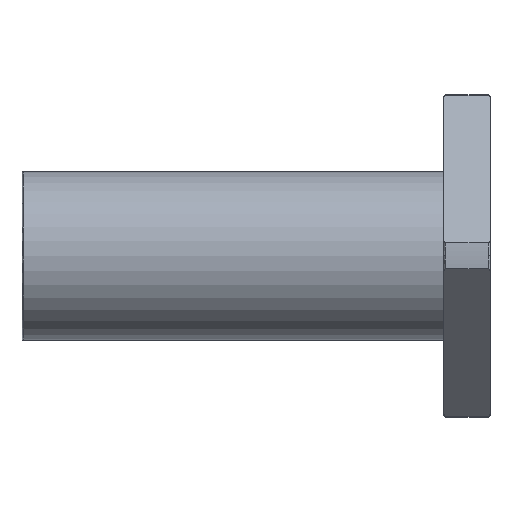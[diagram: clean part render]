
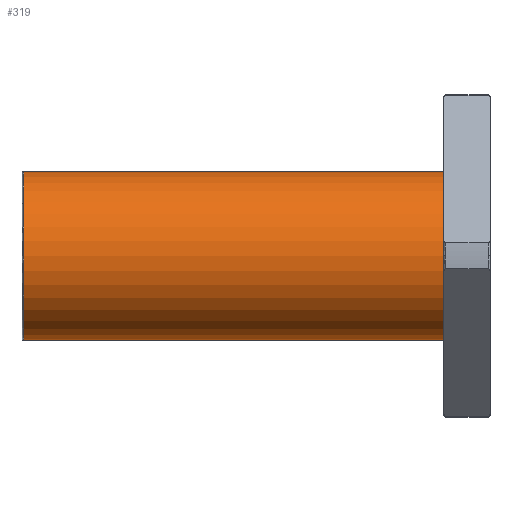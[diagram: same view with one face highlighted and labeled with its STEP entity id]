
A CAD part, top view. The second image highlights one B-rep face of the part: STEP entity #319.
In plain terms, the highlighted cylindrical face has radius 11 mm (diameter 22 mm), a partial arc.
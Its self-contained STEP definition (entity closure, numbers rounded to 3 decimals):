
#319 = ADVANCED_FACE('',(#320),#334,.T.);
#320 = FACE_BOUND('',#321,.T.);
#321 = EDGE_LOOP('',(#322,#357,#386,#415,#438));
#322 = ORIENTED_EDGE('',*,*,#323,.F.);
#323 = EDGE_CURVE('',#324,#326,#328,.T.);
#324 = VERTEX_POINT('',#325);
#325 = CARTESIAN_POINT('',(-60.75,11.,0.));
#326 = VERTEX_POINT('',#327);
#327 = CARTESIAN_POINT('',(-6.,11.,0.));
#328 = SURFACE_CURVE('',#329,(#333,#345),.PCURVE_S1.);
#329 = LINE('',#330,#331);
#330 = CARTESIAN_POINT('',(-33.375,11.,0.));
#331 = VECTOR('',#332,1.);
#332 = DIRECTION('',(1.,0.,0.));
#333 = PCURVE('',#334,#339);
#334 = CYLINDRICAL_SURFACE('',#335,11.);
#335 = AXIS2_PLACEMENT_3D('',#336,#337,#338);
#336 = CARTESIAN_POINT('',(-33.375,0.,0.));
#337 = DIRECTION('',(1.,0.,0.));
#338 = DIRECTION('',(-0.,1.,0.));
#339 = DEFINITIONAL_REPRESENTATION('',(#340),#344);
#340 = LINE('',#341,#342);
#341 = CARTESIAN_POINT('',(0.,0.));
#342 = VECTOR('',#343,1.);
#343 = DIRECTION('',(0.,1.));
#344 = ( GEOMETRIC_REPRESENTATION_CONTEXT(2) 
PARAMETRIC_REPRESENTATION_CONTEXT() REPRESENTATION_CONTEXT('2D SPACE',''
  ) );
#345 = PCURVE('',#346,#351);
#346 = CYLINDRICAL_SURFACE('',#347,11.);
#347 = AXIS2_PLACEMENT_3D('',#348,#349,#350);
#348 = CARTESIAN_POINT('',(-33.375,0.,0.));
#349 = DIRECTION('',(1.,0.,0.));
#350 = DIRECTION('',(-0.,1.,0.));
#351 = DEFINITIONAL_REPRESENTATION('',(#352),#356);
#352 = LINE('',#353,#354);
#353 = CARTESIAN_POINT('',(6.283,0.));
#354 = VECTOR('',#355,1.);
#355 = DIRECTION('',(0.,1.));
#356 = ( GEOMETRIC_REPRESENTATION_CONTEXT(2) 
PARAMETRIC_REPRESENTATION_CONTEXT() REPRESENTATION_CONTEXT('2D SPACE',''
  ) );
#357 = ORIENTED_EDGE('',*,*,#358,.T.);
#358 = EDGE_CURVE('',#324,#359,#361,.T.);
#359 = VERTEX_POINT('',#360);
#360 = CARTESIAN_POINT('',(-60.75,0.,11.));
#361 = SURFACE_CURVE('',#362,(#367,#374),.PCURVE_S1.);
#362 = CIRCLE('',#363,11.);
#363 = AXIS2_PLACEMENT_3D('',#364,#365,#366);
#364 = CARTESIAN_POINT('',(-60.75,0.,0.));
#365 = DIRECTION('',(1.,0.,0.));
#366 = DIRECTION('',(-0.,1.,0.));
#367 = PCURVE('',#334,#368);
#368 = DEFINITIONAL_REPRESENTATION('',(#369),#373);
#369 = LINE('',#370,#371);
#370 = CARTESIAN_POINT('',(0.,-27.375));
#371 = VECTOR('',#372,1.);
#372 = DIRECTION('',(1.,0.));
#373 = ( GEOMETRIC_REPRESENTATION_CONTEXT(2) 
PARAMETRIC_REPRESENTATION_CONTEXT() REPRESENTATION_CONTEXT('2D SPACE',''
  ) );
#374 = PCURVE('',#375,#380);
#375 = TOROIDAL_SURFACE('',#376,10.75,0.25);
#376 = AXIS2_PLACEMENT_3D('',#377,#378,#379);
#377 = CARTESIAN_POINT('',(-60.75,0.,0.));
#378 = DIRECTION('',(1.,0.,0.));
#379 = DIRECTION('',(0.,0.,-1.));
#380 = DEFINITIONAL_REPRESENTATION('',(#381),#385);
#381 = LINE('',#382,#383);
#382 = CARTESIAN_POINT('',(1.571,6.283));
#383 = VECTOR('',#384,1.);
#384 = DIRECTION('',(1.,0.));
#385 = ( GEOMETRIC_REPRESENTATION_CONTEXT(2) 
PARAMETRIC_REPRESENTATION_CONTEXT() REPRESENTATION_CONTEXT('2D SPACE',''
  ) );
#386 = ORIENTED_EDGE('',*,*,#387,.T.);
#387 = EDGE_CURVE('',#359,#388,#390,.T.);
#388 = VERTEX_POINT('',#389);
#389 = CARTESIAN_POINT('',(-60.75,-11.,0.));
#390 = SURFACE_CURVE('',#391,(#396,#403),.PCURVE_S1.);
#391 = CIRCLE('',#392,11.);
#392 = AXIS2_PLACEMENT_3D('',#393,#394,#395);
#393 = CARTESIAN_POINT('',(-60.75,0.,0.));
#394 = DIRECTION('',(1.,0.,0.));
#395 = DIRECTION('',(-0.,1.,0.));
#396 = PCURVE('',#334,#397);
#397 = DEFINITIONAL_REPRESENTATION('',(#398),#402);
#398 = LINE('',#399,#400);
#399 = CARTESIAN_POINT('',(0.,-27.375));
#400 = VECTOR('',#401,1.);
#401 = DIRECTION('',(1.,0.));
#402 = ( GEOMETRIC_REPRESENTATION_CONTEXT(2) 
PARAMETRIC_REPRESENTATION_CONTEXT() REPRESENTATION_CONTEXT('2D SPACE',''
  ) );
#403 = PCURVE('',#404,#409);
#404 = TOROIDAL_SURFACE('',#405,10.75,0.25);
#405 = AXIS2_PLACEMENT_3D('',#406,#407,#408);
#406 = CARTESIAN_POINT('',(-60.75,0.,0.));
#407 = DIRECTION('',(1.,0.,0.));
#408 = DIRECTION('',(0.,0.,-1.));
#409 = DEFINITIONAL_REPRESENTATION('',(#410),#414);
#410 = LINE('',#411,#412);
#411 = CARTESIAN_POINT('',(1.571,6.283));
#412 = VECTOR('',#413,1.);
#413 = DIRECTION('',(1.,0.));
#414 = ( GEOMETRIC_REPRESENTATION_CONTEXT(2) 
PARAMETRIC_REPRESENTATION_CONTEXT() REPRESENTATION_CONTEXT('2D SPACE',''
  ) );
#415 = ORIENTED_EDGE('',*,*,#416,.F.);
#416 = EDGE_CURVE('',#417,#388,#419,.T.);
#417 = VERTEX_POINT('',#418);
#418 = CARTESIAN_POINT('',(-6.,-11.,0.));
#419 = SURFACE_CURVE('',#420,(#424,#431),.PCURVE_S1.);
#420 = LINE('',#421,#422);
#421 = CARTESIAN_POINT('',(-33.375,-11.,0.));
#422 = VECTOR('',#423,1.);
#423 = DIRECTION('',(-1.,-0.,-0.));
#424 = PCURVE('',#334,#425);
#425 = DEFINITIONAL_REPRESENTATION('',(#426),#430);
#426 = LINE('',#427,#428);
#427 = CARTESIAN_POINT('',(3.142,0.));
#428 = VECTOR('',#429,1.);
#429 = DIRECTION('',(0.,-1.));
#430 = ( GEOMETRIC_REPRESENTATION_CONTEXT(2) 
PARAMETRIC_REPRESENTATION_CONTEXT() REPRESENTATION_CONTEXT('2D SPACE',''
  ) );
#431 = PCURVE('',#346,#432);
#432 = DEFINITIONAL_REPRESENTATION('',(#433),#437);
#433 = LINE('',#434,#435);
#434 = CARTESIAN_POINT('',(3.142,0.));
#435 = VECTOR('',#436,1.);
#436 = DIRECTION('',(0.,-1.));
#437 = ( GEOMETRIC_REPRESENTATION_CONTEXT(2) 
PARAMETRIC_REPRESENTATION_CONTEXT() REPRESENTATION_CONTEXT('2D SPACE',''
  ) );
#438 = ORIENTED_EDGE('',*,*,#439,.F.);
#439 = EDGE_CURVE('',#326,#417,#440,.T.);
#440 = SURFACE_CURVE('',#441,(#446,#453),.PCURVE_S1.);
#441 = CIRCLE('',#442,11.);
#442 = AXIS2_PLACEMENT_3D('',#443,#444,#445);
#443 = CARTESIAN_POINT('',(-6.,0.,0.));
#444 = DIRECTION('',(1.,0.,0.));
#445 = DIRECTION('',(-0.,1.,0.));
#446 = PCURVE('',#334,#447);
#447 = DEFINITIONAL_REPRESENTATION('',(#448),#452);
#448 = LINE('',#449,#450);
#449 = CARTESIAN_POINT('',(0.,27.375));
#450 = VECTOR('',#451,1.);
#451 = DIRECTION('',(1.,0.));
#452 = ( GEOMETRIC_REPRESENTATION_CONTEXT(2) 
PARAMETRIC_REPRESENTATION_CONTEXT() REPRESENTATION_CONTEXT('2D SPACE',''
  ) );
#453 = PCURVE('',#454,#459);
#454 = PLANE('',#455);
#455 = AXIS2_PLACEMENT_3D('',#456,#457,#458);
#456 = CARTESIAN_POINT('',(-6.,15.88,0.));
#457 = DIRECTION('',(-1.,0.,0.));
#458 = DIRECTION('',(0.,-1.,0.));
#459 = DEFINITIONAL_REPRESENTATION('',(#460),#468);
#460 = ( BOUNDED_CURVE() B_SPLINE_CURVE(2,(#461,#462,#463,#464,#465,#466
,#467),.UNSPECIFIED.,.T.,.F.) B_SPLINE_CURVE_WITH_KNOTS((1,2,2,2,2,1),(
    -2.094,0.,2.094,4.189,6.283,
8.378),.UNSPECIFIED.) CURVE() GEOMETRIC_REPRESENTATION_ITEM() 
RATIONAL_B_SPLINE_CURVE((1.,0.5,1.,0.5,1.,0.5,1.)) REPRESENTATION_ITEM(
  '') );
#461 = CARTESIAN_POINT('',(4.88,0.));
#462 = CARTESIAN_POINT('',(4.88,19.053));
#463 = CARTESIAN_POINT('',(21.38,9.526));
#464 = CARTESIAN_POINT('',(37.88,0.));
#465 = CARTESIAN_POINT('',(21.38,-9.526));
#466 = CARTESIAN_POINT('',(4.88,-19.053));
#467 = CARTESIAN_POINT('',(4.88,0.));
#468 = ( GEOMETRIC_REPRESENTATION_CONTEXT(2) 
PARAMETRIC_REPRESENTATION_CONTEXT() REPRESENTATION_CONTEXT('2D SPACE',''
  ) );
